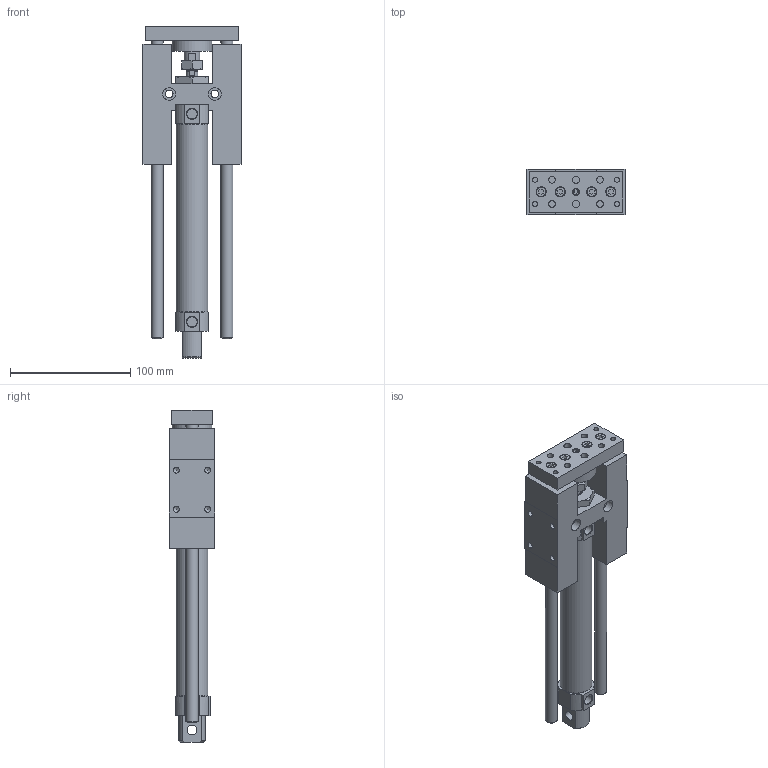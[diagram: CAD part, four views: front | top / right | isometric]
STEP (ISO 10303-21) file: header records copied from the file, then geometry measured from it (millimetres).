
FILE_DESCRIPTION((''),'2;1');
FILE_NAME('I:\3D電子目錄\氣缸\GHB(U)\GHB(U)\GHB(U)25\GHB(U)25x125.stp','2007-10-22T16:50:40',('Administrator'),(''),'Autodesk Inventor 11','Autodesk Inventor 11','');
FILE_SCHEMA(('AUTOMOTIVE_DESIGN { 1 0 10303 214 1 1 1 1 }'));
Length unit declared in the file: millimetre
Products named in the file (1): GHB(U)25
Bounding box: 82 x 38 x 276 mm (x, y, z)
Volume: 379322.2 mm3; surface area: 74900.4 mm2
Topology: 1 solids, 1 shells, 230 faces, 542 edges, 352 vertices
Faces by surface type: plane 131, cylinder 38, bspline 36, cone 25
Full cylindrical faces by diameter (mm): 4.917 x4, 5 x1, 6 x5, 7.5 x4, 8 x1, 8.5 x6, 8.6 x1, 10 x3, 13 x1, 26.6 x1, 33 x1
Entity records: 6522 total; most frequent: CARTESIAN_POINT 1583, DIRECTION 974, ORIENTED_EDGE 928, EDGE_CURVE 464, EDGE_LOOP 358, AXIS2_PLACEMENT_3D 347, VERTEX_POINT 338, VECTOR 280
